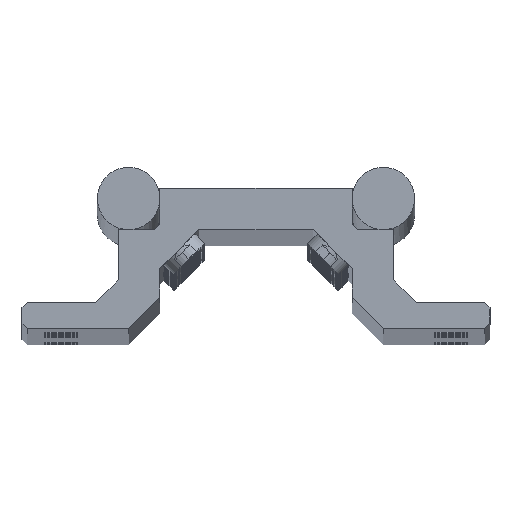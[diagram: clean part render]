
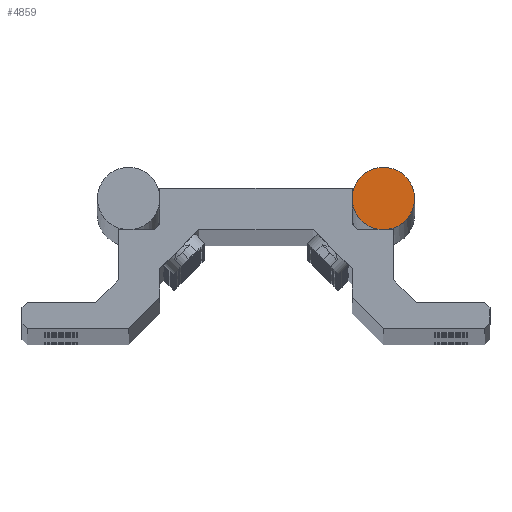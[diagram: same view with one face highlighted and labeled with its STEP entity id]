
A CAD part, top view. The second image highlights one B-rep face of the part: STEP entity #4859.
In plain terms, the highlighted planar face has unit normal (0, 0, 1).
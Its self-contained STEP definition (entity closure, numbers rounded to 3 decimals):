
#2049 = DIRECTION ( 'NONE',  ( 1., 0., 0. ) ) ;
#2050 = DIRECTION ( 'NONE',  ( 0., 0., 1. ) ) ;
#2051 = CARTESIAN_POINT ( 'NONE',  ( 24.5, 25., 1. ) ) ;
#2052 = AXIS2_PLACEMENT_3D ( 'NONE', #2051, #2050, #2049 ) ;
#2053 = CIRCLE ( 'NONE', #2052, 6. ) ;
#2069 = DIRECTION ( 'NONE',  ( 1., 0., 0. ) ) ;
#2070 = DIRECTION ( 'NONE',  ( 0., 0., 1. ) ) ;
#2071 = CARTESIAN_POINT ( 'NONE',  ( 24.5, 25., 1. ) ) ;
#2072 = AXIS2_PLACEMENT_3D ( 'NONE', #2071, #2070, #2069 ) ;
#2073 = PLANE ( 'NONE',  #2072 ) ;
#2074 = FACE_OUTER_BOUND ( 'NONE', #4860, .T. ) ;
#4838 = EDGE_CURVE ( 'NONE', #22711, #22630, #2053, .T. ) ;
#4859 = ADVANCED_FACE ( 'NONE', ( #2074 ), #2073, .T. ) ;
#4860 = EDGE_LOOP ( 'NONE', ( #4861, #4862 ) ) ;
#4861 = ORIENTED_EDGE ( 'NONE', *, *, #22631, .T. ) ;
#4862 = ORIENTED_EDGE ( 'NONE', *, *, #4838, .T. ) ;
#11095 = CARTESIAN_POINT ( 'NONE',  ( 30.5, 25., 1. ) ) ;
#11210 = DIRECTION ( 'NONE',  ( 1., 0., 0. ) ) ;
#11211 = DIRECTION ( 'NONE',  ( 0., 0., 1. ) ) ;
#11212 = CARTESIAN_POINT ( 'NONE',  ( 24.5, 25., 1. ) ) ;
#11213 = AXIS2_PLACEMENT_3D ( 'NONE', #11212, #11211, #11210 ) ;
#11214 = CIRCLE ( 'NONE', #11213, 6. ) ;
#11415 = CARTESIAN_POINT ( 'NONE',  ( 18.5, 25., 1. ) ) ;
#22630 = VERTEX_POINT ( 'NONE', #11095 ) ;
#22631 = EDGE_CURVE ( 'NONE', #22630, #22711, #11214, .T. ) ;
#22711 = VERTEX_POINT ( 'NONE', #11415 ) ;
